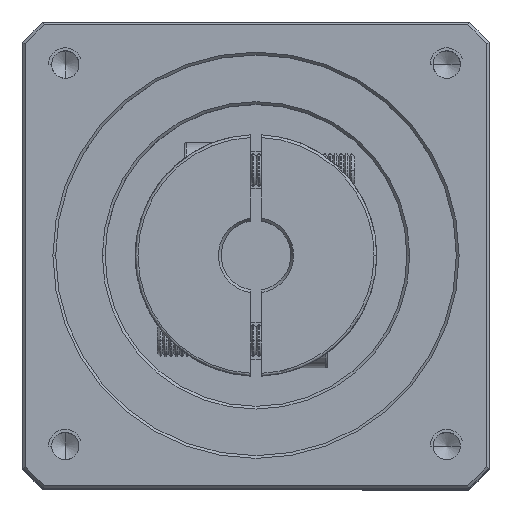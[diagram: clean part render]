
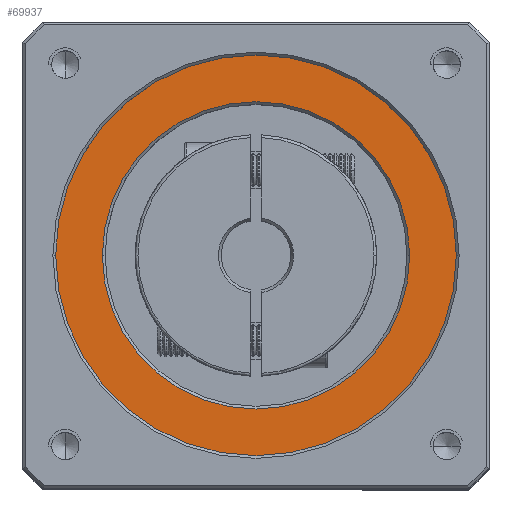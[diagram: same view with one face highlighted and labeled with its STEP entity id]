
A CAD part, top view. The second image highlights one B-rep face of the part: STEP entity #69937.
In plain terms, the highlighted planar face has unit normal (0, 0, 1).
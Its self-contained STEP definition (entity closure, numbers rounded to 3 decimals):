
#1549 = DIRECTION ( 'NONE',  ( 1., 0., 0. ) ) ;
#4687 = AXIS2_PLACEMENT_3D ( 'NONE', #82868, #30970, #91602 ) ;
#5292 = CARTESIAN_POINT ( 'NONE',  ( -38.304, 7.876, 176.5 ) ) ;
#7301 = EDGE_CURVE ( 'NONE', #54741, #57330, #42697, .T. ) ;
#11399 = CARTESIAN_POINT ( 'NONE',  ( 17.696, 7.876, 176.5 ) ) ;
#14928 = ORIENTED_EDGE ( 'NONE', *, *, #7301, .T. ) ;
#16234 = CARTESIAN_POINT ( 'NONE',  ( -10.304, 7.876, 176.5 ) ) ;
#17983 = AXIS2_PLACEMENT_3D ( 'NONE', #74595, #22712, #83364 ) ;
#22712 = DIRECTION ( 'NONE',  ( 0., 0., 1. ) ) ;
#24969 = DIRECTION ( 'NONE',  ( 1., 0., 0. ) ) ;
#27778 = CIRCLE ( 'NONE', #66162, 28. ) ;
#30970 = DIRECTION ( 'NONE',  ( 0., 0., -1. ) ) ;
#36480 = CARTESIAN_POINT ( 'NONE',  ( -10.304, 7.876, 176.5 ) ) ;
#38533 = VERTEX_POINT ( 'NONE', #11399 ) ;
#42697 = CIRCLE ( 'NONE', #61590, 36.5 ) ;
#43217 = CIRCLE ( 'NONE', #17983, 36.5 ) ;
#45007 = EDGE_LOOP ( 'NONE', ( #14928, #58587 ) ) ;
#45217 = DIRECTION ( 'NONE',  ( 1., 0., 0. ) ) ;
#48780 = ORIENTED_EDGE ( 'NONE', *, *, #88214, .T. ) ;
#53617 = DIRECTION ( 'NONE',  ( 0., 0., 1. ) ) ;
#54741 = VERTEX_POINT ( 'NONE', #78693 ) ;
#57330 = VERTEX_POINT ( 'NONE', #111352 ) ;
#58587 = ORIENTED_EDGE ( 'NONE', *, *, #107472, .T. ) ;
#61590 = AXIS2_PLACEMENT_3D ( 'NONE', #16234, #76818, #24969 ) ;
#63126 = FACE_BOUND ( 'NONE', #95460, .T. ) ;
#66162 = AXIS2_PLACEMENT_3D ( 'NONE', #36480, #97132, #45217 ) ;
#69937 = ADVANCED_FACE ( 'NONE', ( #86128, #63126 ), #96402, .T. ) ;
#74063 = EDGE_CURVE ( 'NONE', #76295, #38533, #86148, .T. ) ;
#74595 = CARTESIAN_POINT ( 'NONE',  ( -10.304, 7.876, 176.5 ) ) ;
#76295 = VERTEX_POINT ( 'NONE', #5292 ) ;
#76818 = DIRECTION ( 'NONE',  ( 0., 0., 1. ) ) ;
#78693 = CARTESIAN_POINT ( 'NONE',  ( 26.196, 7.876, 176.5 ) ) ;
#82868 = CARTESIAN_POINT ( 'NONE',  ( -10.304, 7.876, 176.5 ) ) ;
#83364 = DIRECTION ( 'NONE',  ( 1., 0., 0. ) ) ;
#86128 = FACE_OUTER_BOUND ( 'NONE', #45007, .T. ) ;
#86148 = CIRCLE ( 'NONE', #4687, 28. ) ;
#88130 = ORIENTED_EDGE ( 'NONE', *, *, #74063, .T. ) ;
#88214 = EDGE_CURVE ( 'NONE', #38533, #76295, #27778, .T. ) ;
#91602 = DIRECTION ( 'NONE',  ( 1., 0., 0. ) ) ;
#95460 = EDGE_LOOP ( 'NONE', ( #48780, #88130 ) ) ;
#96402 = PLANE ( 'NONE',  #108889 ) ;
#97132 = DIRECTION ( 'NONE',  ( 0., 0., -1. ) ) ;
#105491 = CARTESIAN_POINT ( 'NONE',  ( -10.304, 7.876, 176.5 ) ) ;
#107472 = EDGE_CURVE ( 'NONE', #57330, #54741, #43217, .T. ) ;
#108889 = AXIS2_PLACEMENT_3D ( 'NONE', #105491, #53617, #1549 ) ;
#111352 = CARTESIAN_POINT ( 'NONE',  ( -46.804, 7.876, 176.5 ) ) ;
